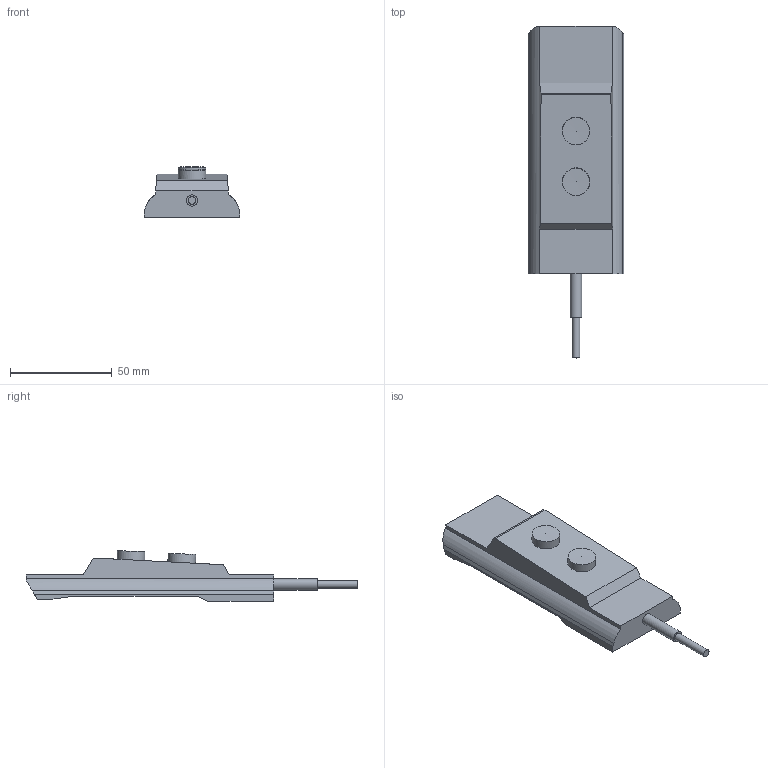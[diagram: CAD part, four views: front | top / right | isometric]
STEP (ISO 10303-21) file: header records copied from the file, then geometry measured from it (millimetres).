
FILE_DESCRIPTION( ( 'STEP AP214' ), '1' );
FILE_NAME( 'C:/Users/KOSH/Desktop/Active task/Connect Task/Office Delta/Export/New folder/9277920.stp', '2020-10-28T11:41:42', ( '' ), ( '' ), ' ', 'PARTsolutions', ' ' );
FILE_SCHEMA( ( 'AUTOMOTIVE_DESIGN { 1 0 10303 214 1 1 1 1 }' ) );
Length unit declared in the file: millimetre
Products named in the file (1): _9277920
Bounding box: 47 x 163.45 x 24.91 mm (x, y, z)
Volume: 76133 mm3; surface area: 16312.4 mm2
Topology: 1 solids, 1 shells, 30 faces, 80 edges, 54 vertices
Faces by surface type: plane 22, cylinder 6, cone 2
Full cylindrical faces by diameter (mm): 3.8 x1, 5.6 x1, 13.6 x2
Entity records: 1114 total; most frequent: CARTESIAN_POINT 149, DIRECTION 144, ORIENTED_EDGE 136, EDGE_CURVE 68, LINE 54, VECTOR 54, VERTEX_POINT 50, AXIS2_PLACEMENT_3D 45
